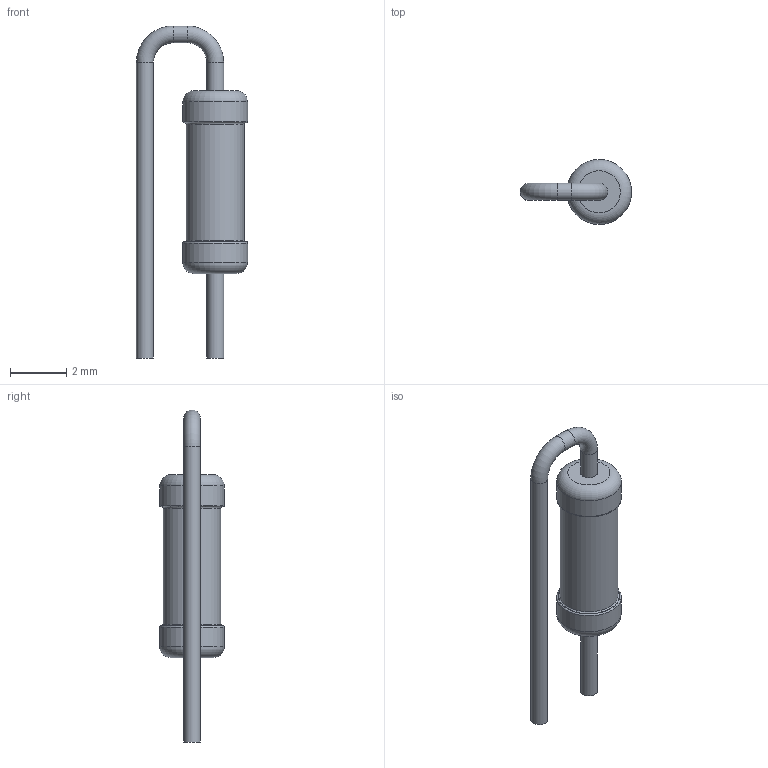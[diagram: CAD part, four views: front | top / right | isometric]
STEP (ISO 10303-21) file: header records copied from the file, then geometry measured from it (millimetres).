
FILE_DESCRIPTION(('STEP AP203'), '1');
FILE_NAME('栖闉罻', '', ('UNSPECIFIED'), ('UNSPECIFIED'), 'ASCON STEP Converter 1.6', 'ASCON Math Kernel', '');
FILE_SCHEMA(('CONFIG_CONTROL_DESIGN'));
Length unit declared in the file: millimetre
Assembly tree (1 placements, depth 2):
  (unnamed)
    (unnamed)
Bounding box: 3.95 x 2.3 x 11.8 mm (x, y, z)
Volume: 28.2 mm3; surface area: 84.7 mm2
Topology: 1 solids, 1 shells, 21 faces, 35 edges, 20 vertices
Faces by surface type: torus 8, cylinder 7, plane 6
Full cylindrical faces by diameter (mm): 0.6 x4, 2.057 x1, 2.3 x2
Entity records: 676 total; most frequent: DIRECTION 86, CARTESIAN_POINT 63, AXIS2_PLACEMENT_3D 43, EDGE_LOOP 40, ORIENTED_EDGE 40, FACE_OUTER_BOUND 30, COLOUR_RGB 22, FILL_AREA_STYLE_COLOUR 22
